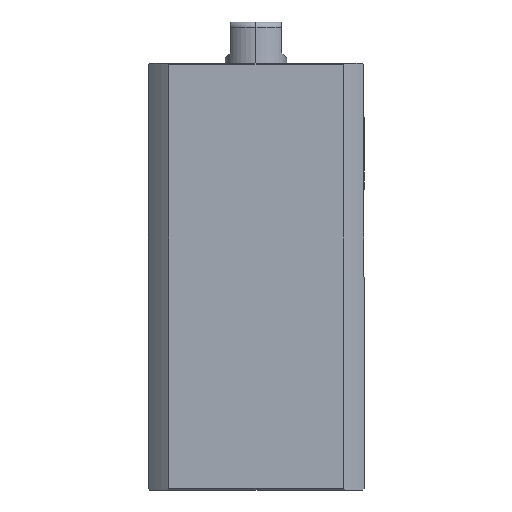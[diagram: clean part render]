
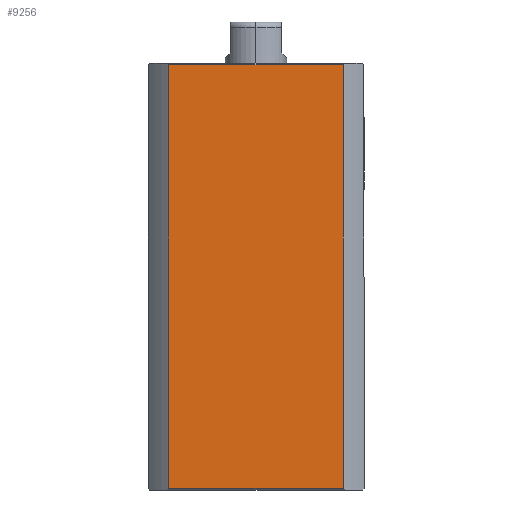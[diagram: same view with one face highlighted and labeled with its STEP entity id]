
A CAD part, left-side view. The second image highlights one B-rep face of the part: STEP entity #9256.
In plain terms, the highlighted planar face has unit normal (-1, 0, 0).
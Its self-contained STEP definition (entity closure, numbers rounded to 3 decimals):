
#54 = CARTESIAN_POINT ( 'NONE',  ( -21., 21., 83. ) ) ;
#152 = CARTESIAN_POINT ( 'NONE',  ( -21., -16.971, 82.7 ) ) ;
#447 = DIRECTION ( 'NONE',  ( 0., 0., 1. ) ) ;
#701 = LINE ( 'NONE', #7972, #2626 ) ;
#1043 = FACE_OUTER_BOUND ( 'NONE', #10771, .T. ) ;
#1508 = VECTOR ( 'NONE', #10242, 1000. ) ;
#1794 = EDGE_CURVE ( 'NONE', #4734, #5480, #10868, .T. ) ;
#2506 = EDGE_CURVE ( 'NONE', #4245, #10726, #701, .T. ) ;
#2626 = VECTOR ( 'NONE', #447, 1000. ) ;
#2727 = AXIS2_PLACEMENT_3D ( 'NONE', #54, #3836, #10394 ) ;
#3553 = VECTOR ( 'NONE', #11216, 1000. ) ;
#3836 = DIRECTION ( 'NONE',  ( 1., 0., 0. ) ) ;
#4245 = VERTEX_POINT ( 'NONE', #8967 ) ;
#4515 = DIRECTION ( 'NONE',  ( 0., 0., -1. ) ) ;
#4734 = VERTEX_POINT ( 'NONE', #152 ) ;
#4840 = ORIENTED_EDGE ( 'NONE', *, *, #2506, .F. ) ;
#5480 = VERTEX_POINT ( 'NONE', #10517 ) ;
#5587 = CARTESIAN_POINT ( 'NONE',  ( -21., 21., 0.3 ) ) ;
#5657 = PLANE ( 'NONE',  #2727 ) ;
#6325 = LINE ( 'NONE', #5587, #3553 ) ;
#6345 = CARTESIAN_POINT ( 'NONE',  ( -21., -16.971, -217. ) ) ;
#7764 = ORIENTED_EDGE ( 'NONE', *, *, #9194, .T. ) ;
#7972 = CARTESIAN_POINT ( 'NONE',  ( -21., 16.971, -217. ) ) ;
#8346 = VECTOR ( 'NONE', #4515, 1000. ) ;
#8471 = EDGE_CURVE ( 'NONE', #4734, #10726, #11483, .T. ) ;
#8967 = CARTESIAN_POINT ( 'NONE',  ( -21., 16.971, 0.3 ) ) ;
#9194 = EDGE_CURVE ( 'NONE', #4245, #5480, #6325, .T. ) ;
#9256 = ADVANCED_FACE ( 'NONE', ( #1043 ), #5657, .F. ) ;
#9277 = CARTESIAN_POINT ( 'NONE',  ( -21., 21., 82.7 ) ) ;
#9856 = CARTESIAN_POINT ( 'NONE',  ( -21., 16.971, 82.7 ) ) ;
#10242 = DIRECTION ( 'NONE',  ( 0., 1., 0. ) ) ;
#10288 = ORIENTED_EDGE ( 'NONE', *, *, #8471, .T. ) ;
#10394 = DIRECTION ( 'NONE',  ( 0., 1., 0. ) ) ;
#10517 = CARTESIAN_POINT ( 'NONE',  ( -21., -16.971, 0.3 ) ) ;
#10726 = VERTEX_POINT ( 'NONE', #9856 ) ;
#10771 = EDGE_LOOP ( 'NONE', ( #4840, #7764, #11008, #10288 ) ) ;
#10868 = LINE ( 'NONE', #6345, #8346 ) ;
#11008 = ORIENTED_EDGE ( 'NONE', *, *, #1794, .F. ) ;
#11216 = DIRECTION ( 'NONE',  ( 0., -1., 0. ) ) ;
#11483 = LINE ( 'NONE', #9277, #1508 ) ;
